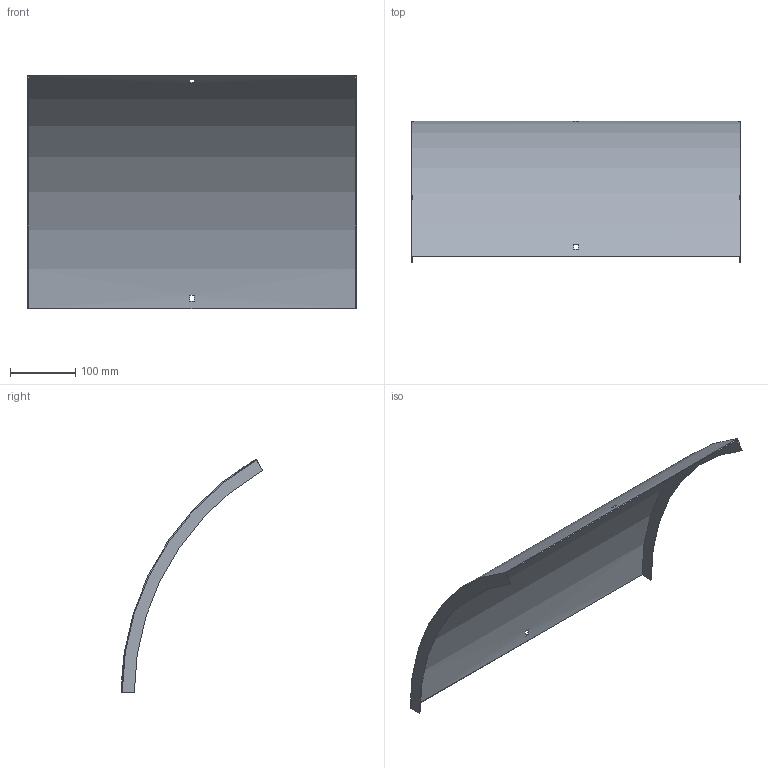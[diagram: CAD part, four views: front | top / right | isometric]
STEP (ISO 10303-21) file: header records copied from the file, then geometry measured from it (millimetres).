
FILE_DESCRIPTION (( 'STEP AP214' ), '1' );
FILE_NAME ('B2_41N3J500.step', '2025-02-21T10:42:19', ( '' ), ( '' ), 'SwSTEP 2.0', 'SolidWorks 2023', '' );
FILE_SCHEMA (( 'AUTOMOTIVE_DESIGN' ));
Length unit declared in the file: millimetre
Products named in the file (1): B2_41N3J500
Bounding box: 503 x 217 x 358.53 mm (x, y, z)
Volume: 349774.2 mm3; surface area: 469318.8 mm2
Topology: 1 solids, 1 shells, 18 faces, 48 edges, 32 vertices
Faces by surface type: plane 14, cylinder 4
Entity records: 599 total; most frequent: DIRECTION 102, CARTESIAN_POINT 99, ORIENTED_EDGE 96, EDGE_CURVE 48, AXIS2_PLACEMENT_3D 35, VECTOR 32, VERTEX_POINT 32, LINE 32
